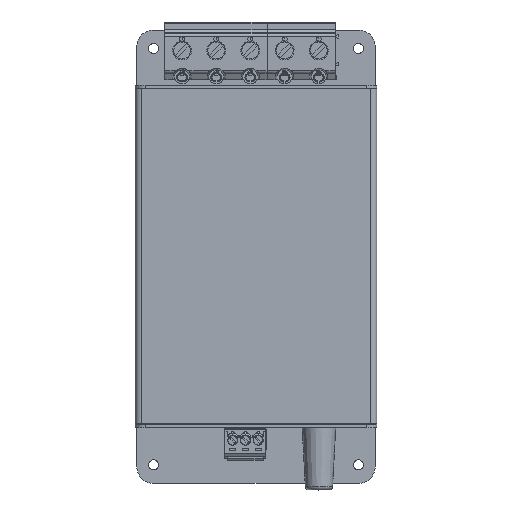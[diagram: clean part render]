
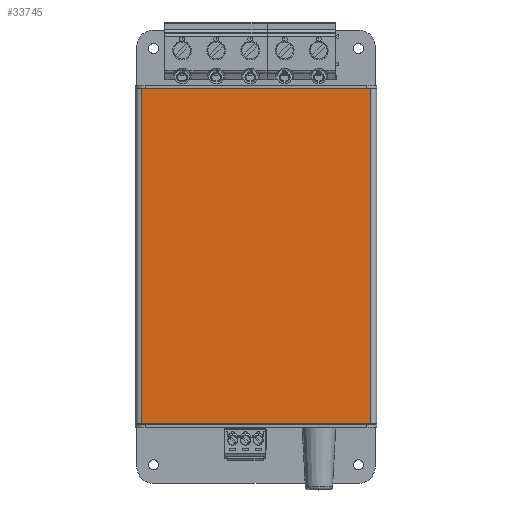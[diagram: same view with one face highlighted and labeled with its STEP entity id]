
A CAD part, top view. The second image highlights one B-rep face of the part: STEP entity #33745.
In plain terms, the highlighted planar face has unit normal (0, 0, 1).
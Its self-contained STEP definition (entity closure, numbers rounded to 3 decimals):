
#4102=LINE('',#59073,#7882);
#4361=LINE('',#59808,#8141);
#4362=LINE('',#59811,#8142);
#4363=LINE('',#59812,#8143);
#7882=VECTOR('',#44647,68.2);
#8141=VECTOR('',#45410,10.);
#8142=VECTOR('',#45413,68.2);
#8143=VECTOR('',#45414,10.);
#10052=FACE_OUTER_BOUND('',#11944,.T.);
#11944=EDGE_LOOP('',(#29883,#29884,#29885,#29886));
#15667=VERTEX_POINT('',#59070);
#15668=VERTEX_POINT('',#59072);
#15892=VERTEX_POINT('',#59806);
#15893=VERTEX_POINT('',#59810);
#20244=EDGE_CURVE('',#15668,#15667,#4102,.T.);
#20612=EDGE_CURVE('',#15892,#15667,#4361,.T.);
#20613=EDGE_CURVE('',#15893,#15892,#4362,.T.);
#20614=EDGE_CURVE('',#15893,#15668,#4363,.T.);
#29883=ORIENTED_EDGE('',*,*,#20244,.T.);
#29884=ORIENTED_EDGE('',*,*,#20612,.F.);
#29885=ORIENTED_EDGE('',*,*,#20613,.F.);
#29886=ORIENTED_EDGE('',*,*,#20614,.T.);
#31470=PLANE('',#36427);
#33745=ADVANCED_FACE('',(#10052),#31470,.T.);
#36427=AXIS2_PLACEMENT_3D('',#59809,#45411,#45412);
#44647=DIRECTION('',(-1.,0.,0.));
#45410=DIRECTION('',(0.,1.,0.));
#45411=DIRECTION('center_axis',(0.,0.,1.));
#45412=DIRECTION('ref_axis',(0.,-1.,0.));
#45413=DIRECTION('',(-1.,0.,0.));
#45414=DIRECTION('',(0.,1.,0.));
#59070=CARTESIAN_POINT('',(-33.849,125.997,-5.53));
#59072=CARTESIAN_POINT('',(34.351,125.997,-5.53));
#59073=CARTESIAN_POINT('',(34.351,125.997,-5.53));
#59806=CARTESIAN_POINT('',(-33.849,25.997,-5.53));
#59808=CARTESIAN_POINT('',(-33.849,115.997,-5.53));
#59809=CARTESIAN_POINT('Origin',(-5.249,115.997,-5.53));
#59810=CARTESIAN_POINT('',(34.351,25.997,-5.53));
#59811=CARTESIAN_POINT('',(34.351,25.997,-5.53));
#59812=CARTESIAN_POINT('',(34.351,115.997,-5.53));
